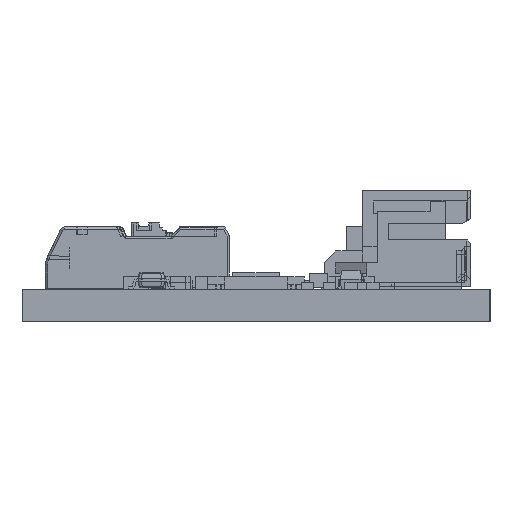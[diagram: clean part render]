
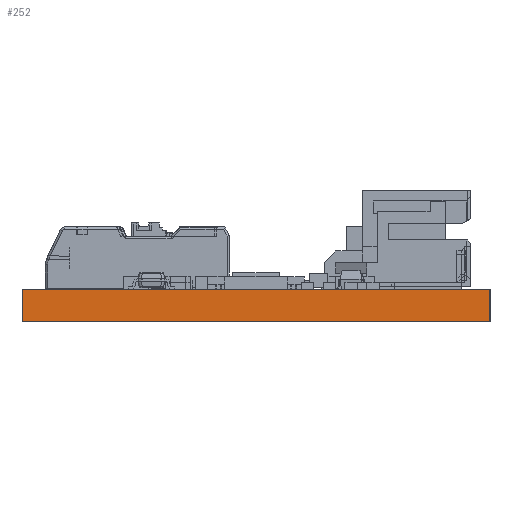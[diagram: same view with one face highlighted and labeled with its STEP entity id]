
A CAD part, left-side view. The second image highlights one B-rep face of the part: STEP entity #252.
In plain terms, the highlighted planar face has unit normal (-1, 0, 0).
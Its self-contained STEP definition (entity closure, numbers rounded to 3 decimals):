
#252 = ADVANCED_FACE('',(#253),#287,.T.);
#253 = FACE_BOUND('',#254,.T.);
#254 = EDGE_LOOP('',(#255,#265,#273,#281));
#255 = ORIENTED_EDGE('',*,*,#256,.T.);
#256 = EDGE_CURVE('',#257,#259,#261,.T.);
#257 = VERTEX_POINT('',#258);
#258 = CARTESIAN_POINT('',(0.,0.,0.));
#259 = VERTEX_POINT('',#260);
#260 = CARTESIAN_POINT('',(0.,0.,2.091));
#261 = LINE('',#262,#263);
#262 = CARTESIAN_POINT('',(0.,0.,0.));
#263 = VECTOR('',#264,1.);
#264 = DIRECTION('',(0.,0.,1.));
#265 = ORIENTED_EDGE('',*,*,#266,.T.);
#266 = EDGE_CURVE('',#259,#267,#269,.T.);
#267 = VERTEX_POINT('',#268);
#268 = CARTESIAN_POINT('',(0.,30.,2.091));
#269 = LINE('',#270,#271);
#270 = CARTESIAN_POINT('',(0.,0.,2.091));
#271 = VECTOR('',#272,1.);
#272 = DIRECTION('',(0.,1.,0.));
#273 = ORIENTED_EDGE('',*,*,#274,.F.);
#274 = EDGE_CURVE('',#275,#267,#277,.T.);
#275 = VERTEX_POINT('',#276);
#276 = CARTESIAN_POINT('',(0.,30.,0.));
#277 = LINE('',#278,#279);
#278 = CARTESIAN_POINT('',(0.,30.,0.));
#279 = VECTOR('',#280,1.);
#280 = DIRECTION('',(0.,0.,1.));
#281 = ORIENTED_EDGE('',*,*,#282,.F.);
#282 = EDGE_CURVE('',#257,#275,#283,.T.);
#283 = LINE('',#284,#285);
#284 = CARTESIAN_POINT('',(0.,0.,0.));
#285 = VECTOR('',#286,1.);
#286 = DIRECTION('',(0.,1.,0.));
#287 = PLANE('',#288);
#288 = AXIS2_PLACEMENT_3D('',#289,#290,#291);
#289 = CARTESIAN_POINT('',(0.,0.,0.));
#290 = DIRECTION('',(-1.,0.,0.));
#291 = DIRECTION('',(0.,1.,0.));
